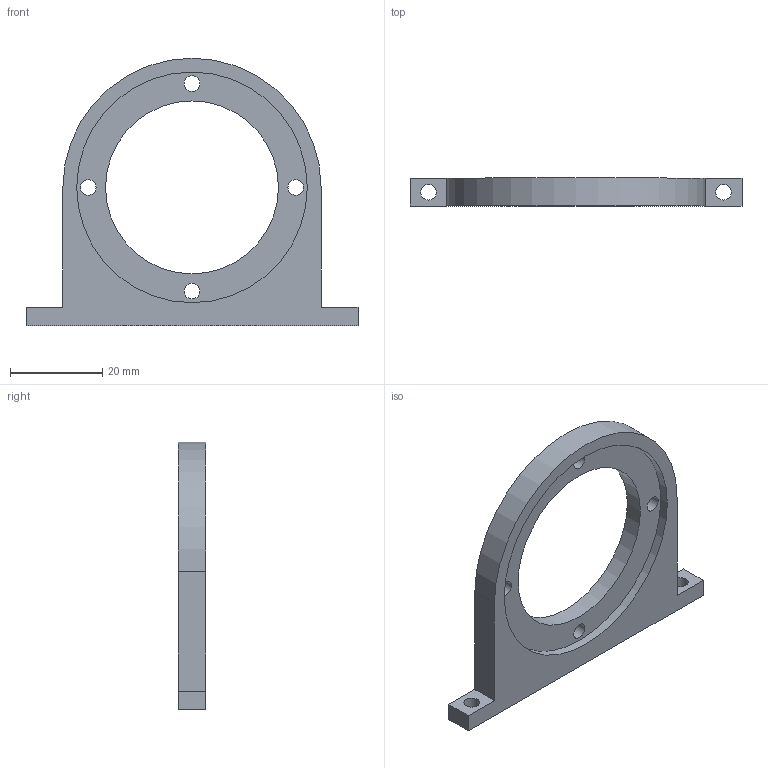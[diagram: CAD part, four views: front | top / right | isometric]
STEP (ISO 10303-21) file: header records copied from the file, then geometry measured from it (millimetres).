
FILE_DESCRIPTION(/* description */ (''),/* implementation_level */ '2;1');
FILE_NAME(/* name */ 'CWC-SE0012-P04_Torque Sensor Holder TD50.stp',/* time_stamp */ '2026-04-28T16:20:03+02:00',/* author */ (''),/* organization */ (''),/* preprocessor_version */ 'ST-DEVELOPER v18.1',/* originating_system */ 'SIEMENS PLM Software NX 1988',/* authorisation */ '');
FILE_SCHEMA (('AUTOMOTIVE_DESIGN { 1 0 10303 214 3 1 1 1 }'));
Length unit declared in the file: millimetre
Products named in the file (1): anto6558201A7f0e
Bounding box: 72 x 6 x 58 mm (x, y, z)
Volume: 9290.3 mm3; surface area: 6090.7 mm2
Topology: 1 solids, 1 shells, 19 faces, 54 edges, 38 vertices
Faces by surface type: plane 10, cylinder 9
Full cylindrical faces by diameter (mm): 3.4 x6, 37.5 x1, 50 x1
Entity records: 600 total; most frequent: DIRECTION 98, CARTESIAN_POINT 92, ORIENTED_EDGE 80, EDGE_LOOP 42, EDGE_CURVE 40, AXIS2_PLACEMENT_3D 38, FACE_BOUND 37, VERTEX_POINT 32
